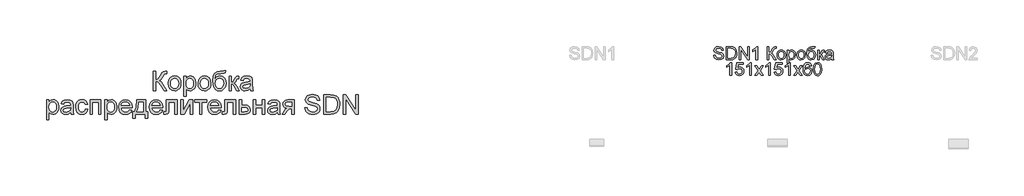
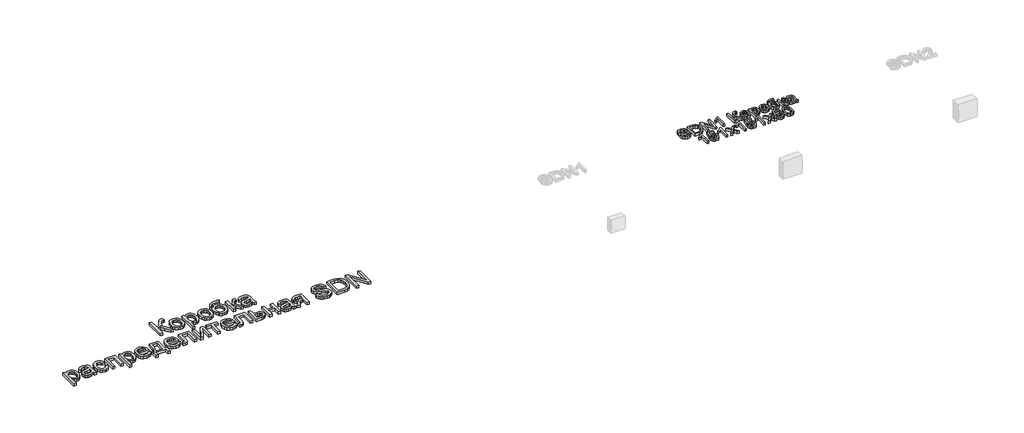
# One storey, part 5 of 28: 2 proxies.
"""IFC4 building model written with IfcOpenShell, lengths in millimetres."""

from ifc_helpers import new_model, si_unit, origin, origin_with_axes, place, context, project, spatial, polyline, outline, extrude, element, save

model = new_model("IFC4")

# Units and contexts
model_context = context("Model", 3, world=origin())
ifc_project = project(units=[si_unit("LENGTHUNIT", "METRE", prefix="MILLI")], contexts=[model_context])

# Site, building, storey
site = spatial("IfcSite", under=ifc_project)
building = spatial("IfcBuilding", under=site)
storey = spatial("IfcBuildingStorey", under=building, Name="Этаж 01", Elevation=0.0)

# Proxies
placement = place(None, origin())
element("IfcBuildingElementProxy", 1, Name="150 мм Arial", ObjectType="150 мм Arial", at=placement, inside=storey, context=model_context, shape_type="SweptSolid", body=[
    extrude(outline(polyline([(1448.1779829, -18118.9604819), (1467.013541, -18118.9604819), (1467.013541, -18184.8849354), (1479.7652507, -18183.6387351), (1488.0747853, -18179.9001344), (1502.771671, -18154.6818236), (1513.1643373, -18133.6205794), (1524.9365612, -18123.1911248), (1541.7671625, -18118.9604819), (1554.1279975, -18119.1812111), (1554.1279975, -18138.0167692), (1549.9709309, -18137.9064046), (1545.8138644, -18137.79604), (1531.0985846, -18142.3209886), (1519.9149719, -18161.7083697), (1506.5792496, -18185.3263938), (1493.5746211, -18193.1254921), (1508.1151569, -18201.6419603), (1522.4533577, -18219.3922665), (1554.1279975, -18269.6449471), (1532.275807, -18269.6449471), (1505.4939977, -18227.1913648), (1486.6400455, -18205.0264746), (1477.9350378, -18200.5153217), (1467.013541, -18199.011604), (1467.013541, -18269.6449471), (1448.1779829, -18269.6449471), (1448.1779829, -18118.9604819)])), origin_with_axes(), (0.0, 0.0, 1.0), 20.0),
    extrude(outline(polyline([(1563.5457766, -18214.315495), (1567.6200697, -18187.6348533), (1579.842949, -18168.8820686), (1594.9445049, -18159.6942158), (1613.0259049, -18156.6315982), (1632.8133577, -18160.3610019), (1648.618488, -18171.5492131), (1658.9789646, -18189.3133149), (1662.4324569, -18212.7703906), (1660.9057466, -18231.7990868), (1656.3256158, -18246.2844404), (1648.8254216, -18257.1323607), (1638.5385213, -18265.2487572), (1626.3202405, -18270.3117332), (1613.0259049, -18271.9993919), (1592.9993288, -18268.2837837), (1577.2125927, -18257.1369592), (1566.9624806, -18239.0003769), (1563.5457766, -18214.315495)]), holes=[polyline([(1582.3813347, -18214.2787068), (1584.5610355, -18231.3254388), (1591.100138, -18243.4701431), (1600.9409814, -18250.7404111), (1613.0259049, -18253.1638337), (1625.0556462, -18250.7266155), (1634.8780954, -18243.4149608), (1641.4171979, -18231.1093081), (1643.5968987, -18213.6900956), (1641.4034023, -18197.1400044), (1634.8229131, -18185.1608469), (1624.9866683, -18177.890579), (1613.0259049, -18175.4671563), (1600.9409814, -18177.8813819), (1591.100138, -18185.1240587), (1584.5610355, -18197.2411719), (1582.3813347, -18214.2787068)])]), origin_with_axes(), (0.0, 0.0, 1.0), 20.0),
    extrude(outline(polyline([(1683.6224598, -18312.0249529), (1683.6224598, -18158.9860429), (1702.4580179, -18158.9860429), (1702.4580179, -18177.4537191), (1715.4810406, -18161.8371284), (1733.0657999, -18156.6315982), (1745.803714, -18158.452614), (1756.9413414, -18163.9156617), (1766.0096326, -18172.6896473), (1772.539538, -18184.443477), (1777.8002506, -18213.4693664), (1776.314927, -18229.5779993), (1771.8589563, -18243.9851779), (1764.5748928, -18255.9597369), (1754.6052908, -18264.7705106), (1742.9940153, -18270.1921716), (1730.7849316, -18271.9993919), (1714.3957887, -18267.1617436), (1702.4580179, -18254.9296673), (1702.4580179, -18312.0249529), (1683.6224598, -18312.0249529)]), holes=[polyline([(1702.4580179, -18215.1984118), (1704.4951645, -18232.0841954), (1710.6066041, -18243.8932074), (1719.6243115, -18250.8461771), (1730.3802614, -18253.1638337), (1741.3109552, -18250.7634037), (1750.5585888, -18243.5621136), (1756.8631665, -18231.3208402), (1758.9646924, -18213.8004602), (1756.9137503, -18197.0066471), (1750.7609239, -18185.0320882), (1741.7570121, -18177.8583893), (1731.1528136, -18175.4671563), (1720.5072283, -18178.0101406), (1711.1584271, -18185.6390935), (1704.6331202, -18198.1148916), (1702.4580179, -18215.1984118)])]), origin_with_axes(), (0.0, 0.0, 1.0), 20.0),
    extrude(outline(polyline([(1794.2813639, -18214.315495), (1798.355657, -18187.6348533), (1810.5785363, -18168.8820686), (1825.6800922, -18159.6942158), (1843.7614923, -18156.6315982), (1863.5489451, -18160.3610019), (1879.3540753, -18171.5492131), (1889.714552, -18189.3133149), (1893.1680442, -18212.7703906), (1891.641334, -18231.7990868), (1887.0612031, -18246.2844404), (1879.561009, -18257.1323607), (1869.2741087, -18265.2487572), (1857.0558279, -18270.3117332), (1843.7614923, -18271.9993919), (1823.7349162, -18268.2837837), (1807.9481801, -18257.1369592), (1797.698068, -18239.0003769), (1794.2813639, -18214.315495)]), holes=[polyline([(1813.1169221, -18214.2787068), (1815.2966229, -18231.3254388), (1821.8357254, -18243.4701431), (1831.6765688, -18250.7404111), (1843.7614923, -18253.1638337), (1855.7912335, -18250.7266155), (1865.6136828, -18243.4149608), (1872.1527853, -18231.1093081), (1874.3324861, -18213.6900956), (1872.1389897, -18197.1400044), (1865.5585005, -18185.1608469), (1855.7222557, -18177.890579), (1843.7614923, -18175.4671563), (1831.6765688, -18177.8813819), (1821.8357254, -18185.1240587), (1815.2966229, -18197.2411719), (1813.1169221, -18214.2787068)])]), origin_with_axes(), (0.0, 0.0, 1.0), 20.0),
    extrude(outline(polyline([(1992.0547246, -18116.6060371), (2008.5358379, -18116.6060371), (2003.6797956, -18131.3029228), (1994.0780755, -18136.6188176), (1971.0118744, -18137.79604), (1939.9442399, -18142.1370476), (1932.8165263, -18147.7840362), (1928.0248633, -18156.042987), (1923.9965554, -18180.6542925), (1940.3121219, -18162.6280747), (1950.2311402, -18158.1307173), (1961.336578, -18156.6315982), (1980.9354912, -18160.4437753), (1996.8371905, -18171.8803069), (2007.3770097, -18189.8191527), (2010.8902827, -18213.1382726), (2009.1474418, -18231.1185051), (2003.9189189, -18245.5486764), (1987.3826232, -18265.1016044), (1976.088646, -18270.274945), (1961.336578, -18271.9993919), (1944.3358313, -18269.7783043), (1931.5933186, -18263.1150417), (1922.2169263, -18252.9890898), (1915.3145404, -18240.3799344), (1911.0655033, -18221.3926249), (1909.6491576, -18192.1322107), (1913.2222115, -18155.9924032), (1923.9413731, -18133.9516732), (1942.073357, -18122.7082797), (1967.8848775, -18118.9604819), (1988.8541512, -18118.5374176), (1992.0547246, -18116.6060371)]), holes=[polyline([(1992.0547246, -18212.5496614), (1990.0129795, -18197.7286156), (1983.8877443, -18185.8598227), (1974.0469009, -18178.0653229), (1960.8583314, -18175.4671563), (1947.1087418, -18178.2124757), (1936.9092135, -18186.4484339), (1930.5908402, -18199.2737199), (1928.4847158, -18215.787023), (1930.8115694, -18231.7944883), (1937.7921303, -18243.5437195), (1948.1847966, -18250.7588052), (1960.7479668, -18253.1638337), (1973.3755162, -18250.3817261), (1983.3727095, -18242.0354033), (1989.8842208, -18229.0997527), (1992.0547246, -18212.5496614)])]), origin_with_axes(), (0.0, 0.0, 1.0), 20.0),
    extrude(outline(polyline([(2034.4347304, -18158.9860429), (2053.2702886, -18158.9860429), (2053.2702886, -18206.0749383), (2065.888641, -18202.690424), (2076.226125, -18182.971949), (2084.8161696, -18165.9574067), (2092.3945387, -18160.4207827), (2106.1717195, -18158.9860429), (2109.776963, -18158.9860429), (2109.776963, -18177.9319657), (2104.7001915, -18177.8216011), (2095.5031416, -18179.8081639), (2089.0284185, -18192.2057871), (2081.4316553, -18205.6150858), (2070.7814715, -18212.1817794), (2082.66406, -18219.5118282), (2094.3259192, -18234.9536749), (2114.4858525, -18269.6449471), (2093.0751204, -18269.6449471), (2073.3198573, -18235.6894389), (2063.3870434, -18221.323647), (2053.2702886, -18217.8471622), (2053.2702886, -18269.6449471), (2034.4347304, -18269.6449471), (2034.4347304, -18158.9860429)])), origin_with_axes(), (0.0, 0.0, 1.0), 20.0),
    extrude(outline(polyline([(2196.8914195, -18255.5182785), (2178.6260784, -18268.2837837), (2158.447751, -18271.9993919), (2142.7070001, -18269.7645087), (2131.0957246, -18263.0598594), (2123.9358213, -18252.8787252), (2121.5491869, -18240.2143875), (2125.1544304, -18225.3151667), (2134.6273918, -18214.499436), (2147.8159613, -18208.3190185), (2164.1131337, -18205.4863271), (2196.7810549, -18199.011604), (2196.8914195, -18194.8177493), (2195.5946354, -18186.4116457), (2191.7042833, -18180.9118098), (2183.0038741, -18176.8283197), (2170.8821624, -18175.4671563), (2151.8258751, -18179.090794), (2142.7391898, -18191.9482697), (2123.9036316, -18189.5938249), (2132.0522178, -18171.1997252), (2148.4597548, -18160.4207827), (2173.3101836, -18156.6315982), (2196.1372614, -18159.9793243), (2209.0315253, -18168.3854279), (2214.8072726, -18181.1693272), (2215.7269776, -18197.6504406), (2215.7269776, -18221.0845237), (2216.6834708, -18253.8076272), (2220.4358672, -18269.6449471), (2201.600309, -18269.6449471), (2196.8914195, -18255.5182785)]), holes=[polyline([(2196.8914195, -18217.8471622), (2166.5043667, -18223.6229095), (2150.2991648, -18226.67633), (2142.959919, -18231.642737), (2140.384745, -18238.8900123), (2145.9949454, -18249.0803436), (2162.4576647, -18253.1638337), (2181.5139521, -18248.6572793), (2193.8012107, -18237.7495781), (2196.7810549, -18223.1814511), (2196.8914195, -18217.8471622)])]), origin_with_axes(), (0.0, 0.0, 1.0), 20.0),
    extrude(outline(polyline([(621.7678689, -18494.9871797), (621.7678689, -18341.9482697), (640.6034271, -18341.9482697), (640.6034271, -18360.4159459), (653.6264497, -18344.7993552), (671.2112091, -18339.5938249), (683.9491232, -18341.4148408), (695.0867506, -18346.8778884), (704.1550417, -18355.651874), (710.6849472, -18367.4057038), (715.9456597, -18396.4315932), (714.4603361, -18412.5402261), (710.0043655, -18426.9474047), (702.720302, -18438.9219636), (692.7506999, -18447.7327374), (681.1394244, -18453.1543983), (668.9303407, -18454.9616186), (652.5411978, -18450.1239704), (640.6034271, -18437.891894), (640.6034271, -18494.9871797), (621.7678689, -18494.9871797)]), holes=[polyline([(640.6034271, -18398.1606386), (642.6405736, -18415.0464221), (648.7520133, -18426.8554342), (657.7697207, -18433.8084039), (668.5256705, -18436.1260605), (679.4563643, -18433.7256304), (688.7039979, -18426.5243404), (695.0085756, -18414.283067), (697.1101015, -18396.762687), (695.0591594, -18379.9688739), (688.906333, -18367.994315), (679.9024212, -18360.8206161), (669.2982227, -18358.4293831), (658.6526375, -18360.9723674), (649.3038363, -18368.6013203), (642.7785294, -18381.0771184), (640.6034271, -18398.1606386)])]), origin_with_axes(), (0.0, 0.0, 1.0), 20.0),
    extrude(outline(polyline([(807.7690057, -18438.4805052), (789.5036646, -18451.2460105), (769.3253372, -18454.9616186), (753.5845863, -18452.7267355), (741.9733108, -18446.0220861), (734.8134075, -18435.8409519), (732.4267731, -18423.1766142), (736.0320166, -18408.2773934), (745.504978, -18397.4616628), (758.6935475, -18391.2812453), (774.9907199, -18388.4485539), (807.6586411, -18381.9738308), (807.7690057, -18377.779976), (806.4722216, -18369.3738724), (802.5818695, -18363.8740366), (793.8814604, -18359.7905465), (781.7597486, -18358.4293831), (762.7034613, -18362.0530207), (753.616776, -18374.9104965), (734.7812178, -18372.5560517), (742.929804, -18354.1619519), (759.337341, -18343.3830095), (784.1877698, -18339.5938249), (807.0148476, -18342.9415511), (819.9091115, -18351.3476547), (825.6848588, -18364.131554), (826.6045638, -18380.6126674), (826.6045638, -18404.0467505), (827.561057, -18436.769854), (831.3134534, -18452.6071739), (812.4778952, -18452.6071739), (807.7690057, -18438.4805052)]), holes=[polyline([(807.7690057, -18400.8093889), (777.3819529, -18406.5851363), (761.176751, -18409.6385568), (753.8375052, -18414.6049638), (751.2623312, -18421.8522391), (756.8725316, -18432.0425703), (773.3352509, -18436.1260605), (792.3915383, -18431.619506), (804.6787969, -18420.7118049), (807.6586411, -18406.1436779), (807.7690057, -18400.8093889)])]), origin_with_axes(), (0.0, 0.0, 1.0), 20.0),
    extrude(outline(polyline([(923.1367994, -18412.5816128), (941.9723575, -18414.9360575), (936.720842, -18431.6884839), (926.8524075, -18444.3482231), (913.295956, -18452.3082697), (896.9803895, -18454.9616186), (876.9446163, -18451.259806), (861.2774419, -18440.1543683), (851.1652855, -18422.1327491), (847.7945668, -18397.682392), (849.2339051, -18380.9207686), (853.55192, -18366.3940283), (860.8175894, -18354.6631912), (871.0998911, -18346.2892772), (883.4009454, -18341.267688), (896.7228721, -18339.5938249), (912.6383669, -18341.8930874), (925.3624854, -18348.7908748), (934.4905574, -18359.9193052), (939.6179128, -18374.9104965), (920.7823546, -18377.2649412), (912.0451572, -18363.1566667), (896.8700249, -18358.4293831), (884.6977294, -18360.7562367), (875.0362285, -18367.7367976), (868.7316508, -18379.7481447), (866.6301249, -18397.1673572), (868.6856656, -18414.8210944), (874.8522875, -18426.8738283), (884.3390445, -18433.8130024), (896.3549901, -18436.1260605), (906.1084615, -18434.6821236), (914.1052964, -18430.3503131), (919.9224304, -18423.0202644), (923.1367994, -18412.5816128)])), origin_with_axes(), (0.0, 0.0, 1.0), 20.0),
    extrude(outline(polyline([(958.4534709, -18341.9482697), (1043.2134826, -18341.9482697), (1043.2134826, -18452.6071739), (1024.3779244, -18452.6071739), (1024.3779244, -18360.7838279), (977.2890291, -18360.7838279), (977.2890291, -18452.6071739), (958.4534709, -18452.6071739), (958.4534709, -18341.9482697)])), origin_with_axes(), (0.0, 0.0, 1.0), 20.0),
    extrude(outline(polyline([(1071.4668198, -18494.9871797), (1071.4668198, -18341.9482697), (1090.302378, -18341.9482697), (1090.302378, -18360.4159459), (1103.3254006, -18344.7993552), (1120.91016, -18339.5938249), (1133.6480741, -18341.4148408), (1144.7857015, -18346.8778884), (1153.8539926, -18355.651874), (1160.3838981, -18367.4057038), (1165.6446106, -18396.4315932), (1164.159287, -18412.5402261), (1159.7033164, -18426.9474047), (1152.4192529, -18438.9219636), (1142.4496508, -18447.7327374), (1130.8383753, -18453.1543983), (1118.6292916, -18454.9616186), (1102.2401487, -18450.1239704), (1090.302378, -18437.891894), (1090.302378, -18494.9871797), (1071.4668198, -18494.9871797)]), holes=[polyline([(1090.302378, -18398.1606386), (1092.3395245, -18415.0464221), (1098.4509642, -18426.8554342), (1107.4686716, -18433.8084039), (1118.2246214, -18436.1260605), (1129.1553152, -18433.7256304), (1138.4029488, -18426.5243404), (1144.7075265, -18414.283067), (1146.8090524, -18396.762687), (1144.7581103, -18379.9688739), (1138.6052839, -18367.994315), (1129.6013721, -18360.8206161), (1118.9971736, -18358.4293831), (1108.3515884, -18360.9723674), (1099.0027872, -18368.6013203), (1092.4774803, -18381.0771184), (1090.302378, -18398.1606386)])]), origin_with_axes(), (0.0, 0.0, 1.0), 20.0),
    extrude(outline(polyline([(1264.3105617, -18419.6449471), (1282.7782379, -18421.9993919), (1276.1241723, -18435.9145283), (1265.5061782, -18446.3163917), (1251.1633789, -18452.8003119), (1233.3348977, -18454.9616186), (1211.2343868, -18451.2322149), (1194.2290416, -18440.0440037), (1183.3857198, -18422.123552), (1179.7712792, -18398.1974268), (1183.422508, -18373.4665596), (1194.3761944, -18354.9712923), (1211.1516134, -18343.4381918), (1232.2680399, -18339.5938249), (1252.7268774, -18343.4289947), (1269.0746335, -18354.9345041), (1279.7937952, -18373.3929832), (1283.366849, -18398.0870622), (1283.2564844, -18403.1638337), (1198.6068374, -18403.1638337), (1201.8671915, -18417.2629112), (1209.4409621, -18427.6279864), (1220.3716559, -18434.0015419), (1233.7027797, -18436.1260605), (1252.1704559, -18432.1897231), (1264.3105617, -18419.6449471)]), holes=[polyline([(1198.6068374, -18384.3282755), (1264.5312909, -18384.3282755), (1261.9837081, -18374.3770676), (1256.98971, -18367.258551), (1246.0084324, -18360.6366751), (1232.1944635, -18358.4293831), (1219.4979362, -18360.1906181), (1208.9995037, -18365.4743233), (1201.7016446, -18373.7102815), (1198.6068374, -18384.3282755)])]), origin_with_axes(), (0.0, 0.0, 1.0), 20.0),
    extrude(outline(polyline([(1318.6835206, -18341.9482697), (1389.3168637, -18341.9482697), (1389.3168637, -18433.7716157), (1403.4435323, -18433.7716157), (1403.4435323, -18483.2149559), (1384.6079741, -18483.2149559), (1384.6079741, -18452.6071739), (1306.9112967, -18452.6071739), (1306.9112967, -18483.2149559), (1288.0757386, -18483.2149559), (1288.0757386, -18433.7716157), (1299.8479624, -18433.7716157), (1308.4058173, -18418.3067763), (1314.3976953, -18397.8479389), (1318.6835206, -18341.9482697)]), holes=[polyline([(1335.164634, -18360.7838279), (1330.75005, -18403.6972626), (1321.0379654, -18433.7716157), (1370.4813055, -18433.7716157), (1370.4813055, -18360.7838279), (1335.164634, -18360.7838279)])]), origin_with_axes(), (0.0, 0.0, 1.0), 20.0),
    extrude(outline(polyline([(1502.1094834, -18419.6449471), (1520.5771595, -18421.9993919), (1513.9230939, -18435.9145283), (1503.3050999, -18446.3163917), (1488.9623006, -18452.8003119), (1471.1338194, -18454.9616186), (1449.0333085, -18451.2322149), (1432.0279633, -18440.0440037), (1421.1846415, -18422.123552), (1417.5702009, -18398.1974268), (1421.2214297, -18373.4665596), (1432.1751161, -18354.9712923), (1448.9505351, -18343.4381918), (1470.0669616, -18339.5938249), (1490.5257991, -18343.4289947), (1506.8735552, -18354.9345041), (1517.5927168, -18373.3929832), (1521.1657707, -18398.0870622), (1521.0554061, -18403.1638337), (1436.405759, -18403.1638337), (1439.6661132, -18417.2629112), (1447.2398838, -18427.6279864), (1458.1705776, -18434.0015419), (1471.5017014, -18436.1260605), (1489.9693775, -18432.1897231), (1502.1094834, -18419.6449471)]), holes=[polyline([(1436.405759, -18384.3282755), (1502.3302126, -18384.3282755), (1499.7826298, -18374.3770676), (1494.7886317, -18367.258551), (1483.8073541, -18360.6366751), (1469.9933852, -18358.4293831), (1457.2968578, -18360.1906181), (1446.7984254, -18365.4743233), (1439.5005663, -18373.7102815), (1436.405759, -18384.3282755)])]), origin_with_axes(), (0.0, 0.0, 1.0), 20.0),
    extrude(outline(polyline([(1549.419108, -18341.9482697), (1634.1791196, -18341.9482697), (1634.1791196, -18452.4968093), (1615.3435615, -18452.4968093), (1615.3435615, -18360.7838279), (1568.2546661, -18360.7838279), (1568.2546661, -18413.5748942), (1566.9854732, -18437.9286822), (1560.0141094, -18448.210984), (1543.532996, -18452.6071739), (1528.229105, -18451.6506807), (1528.229105, -18433.7716157), (1536.6536027, -18433.7716157), (1545.1700709, -18432.6127874), (1548.5729794, -18428.9339675), (1549.419108, -18412.5080364), (1549.419108, -18341.9482697)])), origin_with_axes(), (0.0, 0.0, 1.0), 20.0),
    extrude(outline(polyline([(1662.4324569, -18341.9482697), (1681.268015, -18341.9482697), (1681.268015, -18426.3403994), (1727.54757, -18341.9482697), (1751.9013581, -18341.9482697), (1751.9013581, -18452.6071739), (1733.0657999, -18452.6071739), (1733.0657999, -18368.730079), (1687.0805506, -18452.6071739), (1662.4324569, -18452.6071739), (1662.4324569, -18341.9482697)])), origin_with_axes(), (0.0, 0.0, 1.0), 20.0),
    extrude(outline(polyline([(1770.7369163, -18341.9482697), (1860.2058175, -18341.9482697), (1860.2058175, -18360.7838279), (1824.8891459, -18360.7838279), (1824.8891459, -18452.6071739), (1806.0535878, -18452.6071739), (1806.0535878, -18360.7838279), (1770.7369163, -18360.7838279), (1770.7369163, -18341.9482697)])), origin_with_axes(), (0.0, 0.0, 1.0), 20.0),
    extrude(outline(polyline([(1954.162879, -18419.6449471), (1972.6305552, -18421.9993919), (1965.9764896, -18435.9145283), (1955.3584955, -18446.3163917), (1941.0156962, -18452.8003119), (1923.1872151, -18454.9616186), (1901.0867042, -18451.2322149), (1884.081359, -18440.0440037), (1873.2380372, -18422.123552), (1869.6235966, -18398.1974268), (1873.2748254, -18373.4665596), (1884.2285118, -18354.9712923), (1901.0039307, -18343.4381918), (1922.1203573, -18339.5938249), (1942.5791947, -18343.4289947), (1958.9269509, -18354.9345041), (1969.6461125, -18373.3929832), (1973.2191664, -18398.0870622), (1973.1088018, -18403.1638337), (1888.4591547, -18403.1638337), (1891.7195089, -18417.2629112), (1899.2932795, -18427.6279864), (1910.2239733, -18434.0015419), (1923.5550971, -18436.1260605), (1942.0227732, -18432.1897231), (1954.162879, -18419.6449471)]), holes=[polyline([(1888.4591547, -18384.3282755), (1954.3836082, -18384.3282755), (1951.8360254, -18374.3770676), (1946.8420273, -18367.258551), (1935.8607498, -18360.6366751), (1922.0467809, -18358.4293831), (1909.3502535, -18360.1906181), (1898.8518211, -18365.4743233), (1891.553962, -18373.7102815), (1888.4591547, -18384.3282755)])]), origin_with_axes(), (0.0, 0.0, 1.0), 20.0),
    extrude(outline(polyline([(2001.4725036, -18341.9482697), (2086.2325153, -18341.9482697), (2086.2325153, -18452.4968093), (2067.3969572, -18452.4968093), (2067.3969572, -18360.7838279), (2020.3080618, -18360.7838279), (2020.3080618, -18413.5748942), (2019.0388689, -18437.9286822), (2012.0675051, -18448.210984), (1995.5863917, -18452.6071739), (1980.2825007, -18451.6506807), (1980.2825007, -18433.7716157), (1988.7069984, -18433.7716157), (1997.2234666, -18432.6127874), (2000.626375, -18428.9339675), (2001.4725036, -18412.5080364), (2001.4725036, -18341.9482697)])), origin_with_axes(), (0.0, 0.0, 1.0), 20.0),
    extrude(outline(polyline([(2114.4858525, -18341.9482697), (2133.3214107, -18341.9482697), (2133.3214107, -18381.9738308), (2155.0264484, -18381.9738308), (2173.8436125, -18384.3328741), (2187.767946, -18391.410004), (2196.3763847, -18402.6350033), (2199.2458642, -18417.4376551), (2196.8040475, -18430.9159317), (2189.4785973, -18442.2880839), (2176.7820699, -18450.0274014), (2158.2270218, -18452.6071739), (2114.4858525, -18452.6071739), (2114.4858525, -18341.9482697)]), holes=[polyline([(2133.3214107, -18433.7716157), (2150.9061701, -18433.7716157), (2173.6228833, -18429.8168843), (2178.7134504, -18424.7539083), (2180.4103061, -18417.4744433), (2175.3887168, -18405.8861605), (2167.3183056, -18402.0785818), (2153.1502502, -18400.8093889), (2133.3214107, -18400.8093889), (2133.3214107, -18433.7716157)])]), origin_with_axes(), (0.0, 0.0, 1.0), 20.0),
    extrude(outline(polyline([(2222.7903119, -18341.9482697), (2241.6258701, -18341.9482697), (2241.6258701, -18384.3282755), (2291.0692102, -18384.3282755), (2291.0692102, -18341.9482697), (2309.9047684, -18341.9482697), (2309.9047684, -18452.6071739), (2291.0692102, -18452.6071739), (2291.0692102, -18403.1638337), (2241.6258701, -18403.1638337), (2241.6258701, -18452.6071739), (2222.7903119, -18452.6071739), (2222.7903119, -18341.9482697)])), origin_with_axes(), (0.0, 0.0, 1.0), 20.0),
    extrude(outline(polyline([(2408.7914487, -18438.4805052), (2390.5261076, -18451.2460105), (2370.3477802, -18454.9616186), (2354.6070293, -18452.7267355), (2342.9957539, -18446.0220861), (2335.8358505, -18435.8409519), (2333.4492161, -18423.1766142), (2337.0544596, -18408.2773934), (2346.527421, -18397.4616628), (2359.7159905, -18391.2812453), (2376.0131629, -18388.4485539), (2408.6810841, -18381.9738308), (2408.7914487, -18377.779976), (2407.4946647, -18369.3738724), (2403.6043126, -18363.8740366), (2394.9039034, -18359.7905465), (2382.7821916, -18358.4293831), (2363.7259043, -18362.0530207), (2354.639219, -18374.9104965), (2335.8036608, -18372.5560517), (2343.952247, -18354.1619519), (2360.359784, -18343.3830095), (2385.2102128, -18339.5938249), (2408.0372906, -18342.9415511), (2420.9315545, -18351.3476547), (2426.7073019, -18364.131554), (2427.6270068, -18380.6126674), (2427.6270068, -18404.0467505), (2428.5835, -18436.769854), (2432.3358964, -18452.6071739), (2413.5003382, -18452.6071739), (2408.7914487, -18438.4805052)]), holes=[polyline([(2408.7914487, -18400.8093889), (2378.4043959, -18406.5851363), (2362.199194, -18409.6385568), (2354.8599482, -18414.6049638), (2352.2847742, -18421.8522391), (2357.8949747, -18432.0425703), (2374.3576939, -18436.1260605), (2393.4139813, -18431.619506), (2405.7012399, -18420.7118049), (2408.6810841, -18406.1436779), (2408.7914487, -18400.8093889)])]), origin_with_axes(), (0.0, 0.0, 1.0), 20.0),
    extrude(outline(polyline([(2538.285911, -18341.9482697), (2538.285911, -18452.6071739), (2519.4503528, -18452.6071739), (2519.4503528, -18410.227168), (2509.1864452, -18410.227168), (2495.2069294, -18412.618401), (2482.0735421, -18428.6948442), (2467.0639567, -18452.6071739), (2445.2853426, -18452.6071739), (2464.1944772, -18422.3672738), (2472.5453985, -18411.514755), (2480.2341322, -18406.6955009), (2467.3582623, -18402.7499665), (2458.3083652, -18395.2543708), (2452.9556822, -18385.2847687), (2451.1714545, -18373.9172151), (2453.6086728, -18361.0229512), (2460.9203274, -18350.8142258), (2472.8489011, -18344.1647587), (2489.1368764, -18341.9482697), (2538.285911, -18341.9482697)]), holes=[polyline([(2519.4503528, -18360.7838279), (2494.6183182, -18360.7838279), (2481.7930321, -18361.8736783), (2474.5135671, -18365.1432295), (2470.0070127, -18375.3519549), (2471.6670802, -18382.5302523), (2476.6472827, -18387.5104548), (2500.1733363, -18391.3916099), (2519.4503528, -18391.3916099), (2519.4503528, -18360.7838279)])]), origin_with_axes(), (0.0, 0.0, 1.0), 20.0),
    extrude(outline(polyline([(2620.6914779, -18400.8093889), (2639.5270361, -18400.8093889), (2645.597089, -18419.6633412), (2660.4227334, -18431.5827178), (2683.0106879, -18436.1260605), (2702.6923746, -18432.6863638), (2715.4026976, -18423.2317965), (2719.5781582, -18410.59505), (2716.4511613, -18398.8412203), (2703.6488678, -18390.2879639), (2676.2232651, -18383.0958709), (2646.700735, -18373.8068505), (2630.6794741, -18359.7905465), (2625.4003674, -18341.0653529), (2627.0328438, -18330.0334916), (2631.9302729, -18319.7465913), (2639.9638959, -18311.027788), (2651.0049543, -18304.7002177), (2678.9271977, -18299.5682639), (2708.7256394, -18304.939341), (2720.1483753, -18311.570414), (2728.5912671, -18320.7214786), (2733.9347531, -18331.8223178), (2736.0592716, -18344.3027145), (2717.2237134, -18344.3027145), (2713.7656227, -18333.0639195), (2706.5551356, -18324.9521215), (2695.2887495, -18320.0408969), (2679.6629617, -18318.403822), (2663.669292, -18320.0225028), (2652.6972115, -18324.8785451), (2646.3512471, -18332.0246529), (2644.2359256, -18340.5135299), (2645.7350447, -18347.7516082), (2650.2324021, -18353.5733408), (2680.9873369, -18364.0947658), (2714.3174457, -18373.5493331), (2725.0550014, -18380.3827411), (2732.5459985, -18388.8164359), (2736.9467869, -18398.7584468), (2738.4137164, -18410.1168034), (2736.7260577, -18421.7280789), (2731.6630818, -18432.6495756), (2723.4317221, -18442.0489606), (2712.2389124, -18449.0939008), (2698.7790299, -18453.4946892), (2683.7464519, -18454.9616186), (2665.2925713, -18453.379726), (2650.1036434, -18448.6340483), (2638.0049243, -18440.7061913), (2628.82167, -18429.577761), (2622.926361, -18416.0213094), (2620.6914779, -18400.8093889)])), origin_with_axes(), (0.0, 0.0, 1.0), 20.0),
    extrude(outline(polyline([(2766.6670536, -18452.6071739), (2766.6670536, -18301.9227086), (2818.6487795, -18301.9227086), (2845.5409534, -18304.0932124), (2867.6874495, -18314.8721549), (2878.107707, -18326.3500731), (2885.5297262, -18340.6238945), (2889.9719013, -18357.4177076), (2891.4526264, -18376.4556009), (2887.4427126, -18406.8610478), (2877.1420167, -18428.8052088), (2863.3832301, -18442.4720249), (2845.3754065, -18450.0319999), (2821.1503771, -18452.6071739), (2766.6670536, -18452.6071739)]), holes=[polyline([(2785.5026117, -18433.7716157), (2818.8327205, -18433.7716157), (2843.076144, -18431.0492889), (2857.0556598, -18423.3605552), (2868.515184, -18404.6537558), (2872.6170682, -18376.1612953), (2870.6075128, -18355.6334799), (2864.5788466, -18340.4767417), (2855.6715038, -18330.0656813), (2845.0259186, -18323.7748991), (2818.3176857, -18320.7582668), (2785.5026117, -18320.7582668), (2785.5026117, -18433.7716157)])]), origin_with_axes(), (0.0, 0.0, 1.0), 20.0),
    extrude(outline(polyline([(2917.3515188, -18452.6071739), (2917.3515188, -18301.9227086), (2937.5114522, -18301.9227086), (3016.2381991, -18421.3004161), (3016.2381991, -18301.9227086), (3035.0737573, -18301.9227086), (3035.0737573, -18452.6071739), (3014.9138239, -18452.6071739), (2936.187077, -18333.1926782), (2936.187077, -18452.6071739), (2917.3515188, -18452.6071739)])), origin_with_axes(), (0.0, 0.0, 1.0), 20.0),
])
element("IfcBuildingElementProxy", 2, Name="100 мм Arial", ObjectType="100 мм Arial", at=placement, inside=storey, context=model_context, shape_type="SweptSolid", body=[
    extrude(outline(polyline([(5784.9619995, -17996.4555668), (5797.5190382, -17996.4555668), (5801.5657402, -18009.0248683), (5811.4495031, -18016.9711194), (5826.5081394, -18020.0000145), (5839.6292639, -18017.7068834), (5848.1028126, -18011.4038385), (5850.886453, -18002.9793409), (5848.8017884, -17995.1434544), (5840.2669261, -17989.4412834), (5821.9831909, -17984.6465548), (5802.3015042, -17978.4538745), (5791.6206636, -17969.1096718), (5788.1012592, -17956.6262095), (5792.4545294, -17942.4137017), (5805.1709837, -17932.382786), (5823.7858127, -17928.9614834), (5843.6514404, -17932.5422015), (5856.8951922, -17943.0636266), (5861.8738619, -17958.7844505), (5849.3168231, -17958.7844505), (5847.0114293, -17951.2919205), (5842.2044379, -17945.8840552), (5824.276322, -17941.5185222), (5806.2991552, -17945.8350043), (5800.6582979, -17956.2583275), (5804.6559489, -17964.964868), (5825.1592388, -17971.9791514), (5847.3793113, -17978.2821962), (5859.5316799, -17988.4602648), (5863.4434918, -18002.6605098), (5858.9430687, -18017.6823579), (5845.9936225, -18028.6452414), (5826.9986488, -18032.5570533), (5804.5701098, -18028.3386731), (5790.3821275, -18015.6344815), (5784.9619995, -17996.4555668)])), origin_with_axes(), (0.0, 0.0, 1.0), 20.0),
    extrude(outline(polyline([(5882.2790499, -18030.9874234), (5882.2790499, -17930.5311133), (5916.9335339, -17930.5311133), (5934.8616498, -17931.9781158), (5949.6259805, -17939.1640774), (5961.5208317, -17956.3319039), (5965.4694318, -17980.2197081), (5962.7961559, -18000.490006), (5955.9290254, -18015.1194467), (5946.7565009, -18024.2306574), (5934.7512852, -18029.2706408), (5918.6012656, -18030.9874234), (5882.2790499, -18030.9874234)]), holes=[polyline([(5894.8360887, -18018.4303847), (5917.0561612, -18018.4303847), (5933.2184435, -18016.6155001), (5942.5381207, -18011.4896777), (5950.1778035, -17999.018478), (5952.912393, -17980.0235044), (5951.5726894, -17966.3382941), (5947.5535786, -17956.233802), (5934.5182932, -17945.0992403), (5916.7128047, -17943.088152), (5894.8360887, -17943.088152), (5894.8360887, -18018.4303847)])]), origin_with_axes(), (0.0, 0.0, 1.0), 20.0),
    extrude(outline(polyline([(5982.7353601, -18030.9874234), (5982.7353601, -17930.5311133), (5996.1753156, -17930.5311133), (6048.6598136, -18010.1162516), (6048.6598136, -17930.5311133), (6061.2168524, -17930.5311133), (6061.2168524, -18030.9874234), (6047.7768968, -18030.9874234), (5995.2923988, -17951.3777597), (5995.2923988, -18030.9874234), (5982.7353601, -18030.9874234)])), origin_with_axes(), (0.0, 0.0, 1.0), 20.0),
    extrude(outline(polyline([(6125.5716761, -18030.9874234), (6113.0146373, -18030.9874234), (6113.0146373, -17952.7021348), (6101.1197861, -17961.1756835), (6087.9005598, -17967.5155165), (6087.9005598, -17955.6451908), (6106.3069222, -17943.8974924), (6117.4782722, -17930.5311133), (6125.5716761, -17930.5311133), (6125.5716761, -18030.9874234)])), origin_with_axes(), (0.0, 0.0, 1.0), 20.0),
    extrude(outline(polyline([(6199.3442788, -17930.5311133), (6211.9013176, -17930.5311133), (6211.9013176, -17974.480749), (6225.9421471, -17971.1575483), (6235.7400709, -17954.3453411), (6242.6685151, -17940.3045116), (6250.5166644, -17933.3515419), (6261.7370652, -17930.5311133), (6269.9776219, -17930.6782661), (6269.9776219, -17943.2353048), (6267.2062442, -17943.1617284), (6264.4348665, -17943.088152), (6254.62468, -17946.1047844), (6247.1689382, -17959.0297052), (6238.2784566, -17974.7750546), (6229.6087043, -17979.9744534), (6239.3023949, -17985.6520989), (6248.8611954, -17997.4856364), (6269.9776219, -18030.9874234), (6255.4094949, -18030.9874234), (6237.5549554, -18002.6850353), (6224.9856539, -17987.9084418), (6211.9013176, -17983.898528), (6211.9013176, -18030.9874234), (6199.3442788, -18030.9874234), (6199.3442788, -17930.5311133)])), origin_with_axes(), (0.0, 0.0, 1.0), 20.0),
    extrude(outline(polyline([(6276.2561413, -17994.101122), (6278.9723367, -17976.3140276), (6287.1209229, -17963.8121711), (6297.1886268, -17957.6869359), (6309.2428935, -17955.6451908), (6322.4345287, -17958.13146), (6332.9712822, -17965.5902674), (6339.8782667, -17977.433002), (6342.1805948, -17993.0710524), (6338.1093674, -18015.4137523), (6326.2513044, -18028.0566302), (6309.2428935, -18032.5570533), (6295.8918428, -18030.0799812), (6285.367352, -18022.6487649), (6278.533944, -18010.55771), (6276.2561413, -17994.101122)]), holes=[polyline([(6288.8131801, -17994.0765966), (6290.2663139, -18005.4410845), (6294.6257156, -18013.5375541), (6301.1862778, -18018.3843994), (6309.2428935, -18020.0000145), (6317.262721, -18018.3752024), (6323.8110205, -18013.5007659), (6328.1704222, -18005.2969974), (6329.6235561, -17993.6841891), (6328.1612251, -17982.6507949), (6323.7742323, -17974.66469), (6317.2167358, -17969.8178447), (6309.2428935, -17968.2022296), (6301.1862778, -17969.8117133), (6294.6257156, -17974.6401645), (6290.2663139, -17982.71824), (6288.8131801, -17994.0765966)])]), origin_with_axes(), (0.0, 0.0, 1.0), 20.0),
    extrude(outline(polyline([(6356.3072634, -18059.2407606), (6356.3072634, -17957.2148207), (6368.8643022, -17957.2148207), (6368.8643022, -17969.5266048), (6377.5463173, -17959.1155443), (6389.2694902, -17955.6451908), (6405.1865179, -17960.5012331), (6415.5853156, -17974.1864434), (6419.0924573, -17993.5370363), (6415.1315945, -18013.8809106), (6403.6291507, -18027.7377991), (6387.7489113, -18032.5570533), (6376.822816, -18029.3319544), (6368.8643022, -18021.1772369), (6368.8643022, -18059.2407606), (6356.3072634, -18059.2407606)]), holes=[polyline([(6368.8643022, -17994.6897332), (6370.2223999, -18005.9469223), (6374.296693, -18013.819597), (6380.3084979, -18018.4549101), (6387.4791312, -18020.0000145), (6394.7662603, -18018.3997278), (6400.9313494, -18013.5988678), (6405.1344012, -18005.4380189), (6406.5354185, -17993.7577655), (6405.1681238, -17982.5618901), (6401.0662395, -17974.5788508), (6395.0636316, -17969.7963849), (6387.994166, -17968.2022296), (6380.8971091, -17969.8975524), (6374.664575, -17974.983521), (6370.3143704, -17983.3007198), (6368.8643022, -17994.6897332)])]), origin_with_axes(), (0.0, 0.0, 1.0), 20.0),
    extrude(outline(polyline([(6430.0798662, -17994.101122), (6432.7960616, -17976.3140276), (6440.9446478, -17963.8121711), (6451.0123517, -17957.6869359), (6463.0666184, -17955.6451908), (6476.2582536, -17958.13146), (6486.7950071, -17965.5902674), (6493.7019916, -17977.433002), (6496.0043197, -17993.0710524), (6491.9330923, -18015.4137523), (6480.0750293, -18028.0566302), (6463.0666184, -18032.5570533), (6449.7155677, -18030.0799812), (6439.1910769, -18022.6487649), (6432.3576689, -18010.55771), (6430.0798662, -17994.101122)]), holes=[polyline([(6442.636905, -17994.0765966), (6444.0900388, -18005.4410845), (6448.4494405, -18013.5375541), (6455.0100027, -18018.3843994), (6463.0666184, -18020.0000145), (6471.0864459, -18018.3752024), (6477.6347454, -18013.5007659), (6481.9941471, -18005.2969974), (6483.447281, -17993.6841891), (6481.98495, -17982.6507949), (6477.5979572, -17974.66469), (6471.0404607, -17969.8178447), (6463.0666184, -17968.2022296), (6455.0100027, -17969.8117133), (6448.4494405, -17974.6401645), (6444.0900388, -17982.71824), (6442.636905, -17994.0765966)])]), origin_with_axes(), (0.0, 0.0, 1.0), 20.0),
    extrude(outline(polyline([(6561.9287733, -17928.9614834), (6572.9161822, -17928.9614834), (6569.6788206, -17938.7594072), (6563.2776739, -17942.3033371), (6547.9002065, -17943.088152), (6527.1884502, -17945.9821571), (6519.2421991, -17955.2527833), (6516.5566605, -17971.6603203), (6527.4337049, -17959.6428418), (6541.4500089, -17955.6451908), (6554.5159511, -17958.1866423), (6565.1170839, -17965.8109966), (6572.14363, -17977.7702271), (6574.485812, -17993.3163071), (6569.8382362, -18014.923243), (6558.814039, -18027.9585283), (6541.4500089, -18032.5570533), (6530.1161777, -18031.0763282), (6521.6211693, -18026.6341531), (6510.7686505, -18011.4774149), (6506.9917287, -17979.3122658), (6509.3737646, -17955.2190608), (6516.5198723, -17940.5252408), (6528.6078616, -17933.0296452), (6545.8155419, -17930.5311133), (6559.7950577, -17930.2490704), (6561.9287733, -17928.9614834)]), holes=[polyline([(6561.9287733, -17992.9238997), (6560.5676099, -17983.0432024), (6556.4841197, -17975.1306738), (6549.9235575, -17969.9343406), (6541.1311778, -17968.2022296), (6531.9647848, -17970.0324425), (6525.1650992, -17975.5230813), (6520.9528504, -17984.073272), (6519.5487674, -17995.0821407), (6521.1000032, -18005.7537842), (6525.7537104, -18013.586605), (6532.6821547, -18018.3966621), (6541.0576014, -18020.0000145), (6549.4759677, -18018.1452761), (6556.1407632, -18012.5810609), (6560.4817708, -18003.9572938), (6561.9287733, -17992.9238997)])]), origin_with_axes(), (0.0, 0.0, 1.0), 20.0),
    extrude(outline(polyline([(6590.1821105, -17957.2148207), (6602.7391493, -17957.2148207), (6602.7391493, -17988.6074176), (6611.1513842, -17986.3510747), (6618.0430403, -17973.2054247), (6623.7697367, -17961.8623965), (6628.8219827, -17958.1713138), (6638.0067699, -17957.2148207), (6640.4102656, -17957.2148207), (6640.4102656, -17969.8454358), (6637.0257512, -17969.7718594), (6630.8943846, -17971.0962346), (6626.5779026, -17979.3613168), (6621.5133938, -17988.3008492), (6614.4132713, -17992.678645), (6622.3349969, -17997.5653442), (6630.1095697, -18007.8599087), (6643.5495253, -18030.9874234), (6629.2757039, -18030.9874234), (6616.1055284, -18008.350418), (6609.4836525, -17998.7732234), (6602.7391493, -17996.4555668), (6602.7391493, -18030.9874234), (6590.1821105, -18030.9874234), (6590.1821105, -17957.2148207)])), origin_with_axes(), (0.0, 0.0, 1.0), 20.0),
    extrude(outline(polyline([(6698.4865699, -18021.5696443), (6686.3096758, -18030.0799812), (6672.8574576, -18032.5570533), (6662.3636236, -18031.0671312), (6654.6227733, -18026.5973649), (6649.8495044, -18019.8099421), (6648.2584148, -18011.3670503), (6650.6619105, -18001.4342365), (6656.9772181, -17994.2237494), (6665.7695978, -17990.103471), (6676.6343794, -17988.2150101), (6698.4129935, -17983.898528), (6698.4865699, -17981.1026249), (6695.0284791, -17971.8319986), (6681.1470652, -17968.2022296), (6668.4428736, -17970.617988), (6662.3850834, -17979.1896385), (6649.8280447, -17977.6200087), (6655.2604354, -17965.3572755), (6666.1987934, -17958.1713138), (6682.765746, -17955.6451908), (6697.9837978, -17957.8770082), (6706.5799738, -17963.4810773), (6710.430472, -17972.0036769), (6711.0436086, -17982.9910858), (6711.0436086, -17998.6138078), (6711.6812708, -18020.4292102), (6714.1828683, -18030.9874234), (6701.6258296, -18030.9874234), (6698.4865699, -18021.5696443)]), holes=[polyline([(6698.4865699, -17996.4555668), (6678.2285347, -18000.306065), (6667.4250668, -18002.3416787), (6662.5322362, -18005.6526167), (6660.8154536, -18010.4841336), (6664.5555872, -18017.2776877), (6675.5307334, -18020.0000145), (6688.2349249, -18016.9956449), (6696.4264307, -18009.7238441), (6698.4129935, -18000.0117594), (6698.4865699, -17996.4555668)])]), origin_with_axes(), (0.0, 0.0, 1.0), 20.0),
    extrude(outline(polyline([(5923.8742408, -18152.9622413), (5911.3172021, -18152.9622413), (5911.3172021, -18074.6769527), (5899.4223509, -18083.1505013), (5886.2031245, -18089.4903344), (5886.2031245, -18077.6200087), (5904.609487, -18065.8723103), (5915.7808369, -18052.5059311), (5923.8742408, -18052.5059311), (5923.8742408, -18152.9622413)])), origin_with_axes(), (0.0, 0.0, 1.0), 20.0),
    extrude(outline(polyline([(5953.6972079, -18126.2785339), (5966.2542467, -18124.708904), (5972.581817, -18137.6460875), (5985.7029415, -18141.9748323), (5994.7037876, -18140.4695818), (6001.4482909, -18135.9538304), (6005.6605397, -18128.948744), (6007.0646227, -18119.975489), (6001.8039101, -18105.0640055), (5995.1973627, -18100.9621212), (5985.8991452, -18099.5948265), (5974.8749481, -18101.777593), (5967.8238765, -18107.4429757), (5955.2668378, -18105.8733459), (5966.2542467, -18054.075561), (6014.9127719, -18054.075561), (6014.9127719, -18066.6325997), (5976.4077897, -18066.6325997), (5971.0367126, -18094.2973258), (5980.0069019, -18088.8526722), (5989.4062869, -18087.0377877), (6001.1386569, -18089.2879993), (6010.8783327, -18096.0386339), (6017.4358293, -18106.327067), (6019.6216614, -18119.1906741), (6017.6534928, -18131.7477129), (6011.7489868, -18142.4898671), (6000.4427468, -18151.5213701), (5985.6538906, -18154.5318711), (5973.3206467, -18152.597425), (5963.4951317, -18146.7940865), (5956.7598255, -18137.796306), (5953.6972079, -18126.2785339)])), origin_with_axes(), (0.0, 0.0, 1.0), 20.0),
    extrude(outline(polyline([(6077.6979658, -18152.9622413), (6065.140927, -18152.9622413), (6065.140927, -18074.6769527), (6053.2460758, -18083.1505013), (6040.0268494, -18089.4903344), (6040.0268494, -18077.6200087), (6058.4332119, -18065.8723103), (6069.6045619, -18052.5059311), (6077.6979658, -18052.5059311), (6077.6979658, -18152.9622413)])), origin_with_axes(), (0.0, 0.0, 1.0), 20.0),
    extrude(outline(polyline([(6102.8120433, -18152.9622413), (6129.6429035, -18115.8797362), (6104.3816731, -18079.1896385), (6119.4893604, -18079.1896385), (6131.6785172, -18096.8479743), (6137.3684254, -18105.1866328), (6142.2980441, -18098.3685532), (6156.1794581, -18079.1896385), (6171.2871453, -18079.1896385), (6144.7505907, -18115.8797362), (6170.3061267, -18152.9622413), (6155.1984394, -18152.9622413), (6139.820972, -18130.6685924), (6137.0005434, -18126.5973649), (6117.9197306, -18152.9622413), (6102.8120433, -18152.9622413)])), origin_with_axes(), (0.0, 0.0, 1.0), 20.0),
    extrude(outline(polyline([(6225.2431713, -18152.9622413), (6212.6861325, -18152.9622413), (6212.6861325, -18074.6769527), (6200.7912813, -18083.1505013), (6187.572055, -18089.4903344), (6187.572055, -18077.6200087), (6205.9784175, -18065.8723103), (6217.1497674, -18052.5059311), (6225.2431713, -18052.5059311), (6225.2431713, -18152.9622413)])), origin_with_axes(), (0.0, 0.0, 1.0), 20.0),
    extrude(outline(polyline([(6255.0661384, -18126.2785339), (6267.6231771, -18124.708904), (6273.9507474, -18137.6460875), (6287.0718719, -18141.9748323), (6296.0727181, -18140.4695818), (6302.8172213, -18135.9538304), (6307.0294702, -18128.948744), (6308.4335531, -18119.975489), (6303.1728406, -18105.0640055), (6296.5662931, -18100.9621212), (6287.2680757, -18099.5948265), (6276.2438786, -18101.777593), (6269.192807, -18107.4429757), (6256.6357682, -18105.8733459), (6267.6231771, -18054.075561), (6316.2817024, -18054.075561), (6316.2817024, -18066.6325997), (6277.7767202, -18066.6325997), (6272.4056431, -18094.2973258), (6281.3758324, -18088.8526722), (6290.7752174, -18087.0377877), (6302.5075873, -18089.2879993), (6312.2472631, -18096.0386339), (6318.8047597, -18106.327067), (6320.9905919, -18119.1906741), (6319.0224232, -18131.7477129), (6313.1179172, -18142.4898671), (6301.8116772, -18151.5213701), (6287.022821, -18154.5318711), (6274.6895771, -18152.597425), (6264.8640622, -18146.7940865), (6258.128756, -18137.796306), (6255.0661384, -18126.2785339)])), origin_with_axes(), (0.0, 0.0, 1.0), 20.0),
    extrude(outline(polyline([(6379.0668962, -18152.9622413), (6366.5098574, -18152.9622413), (6366.5098574, -18074.6769527), (6354.6150063, -18083.1505013), (6341.3957799, -18089.4903344), (6341.3957799, -18077.6200087), (6359.8021424, -18065.8723103), (6370.9734923, -18052.5059311), (6379.0668962, -18052.5059311), (6379.0668962, -18152.9622413)])), origin_with_axes(), (0.0, 0.0, 1.0), 20.0),
    extrude(outline(polyline([(6404.1809737, -18152.9622413), (6431.0118339, -18115.8797362), (6405.7506036, -18079.1896385), (6420.8582909, -18079.1896385), (6433.0474476, -18096.8479743), (6438.7373558, -18105.1866328), (6443.6669746, -18098.3685532), (6457.5483885, -18079.1896385), (6472.6560758, -18079.1896385), (6446.1195212, -18115.8797362), (6471.6750571, -18152.9622413), (6456.5673699, -18152.9622413), (6441.1899025, -18130.6685924), (6438.3694738, -18126.5973649), (6419.288661, -18152.9622413), (6404.1809737, -18152.9622413)])), origin_with_axes(), (0.0, 0.0, 1.0), 20.0),
    extrude(outline(polyline([(6543.87803, -18079.1896385), (6531.3209913, -18080.7592683), (6526.5630508, -18070.2868942), (6513.9814866, -18065.0629699), (6502.6507211, -18068.1041277), (6494.0790706, -18079.5207323), (6490.5106153, -18101.9002203), (6501.5838633, -18091.8815673), (6515.3058617, -18088.6074176), (6526.9064073, -18090.8453664), (6536.6430175, -18097.5592128), (6543.2464993, -18107.8169891), (6545.4476599, -18120.6867276), (6541.3028561, -18138.0139695), (6529.8985142, -18150.2767027), (6513.4419263, -18154.5318711), (6499.195696, -18151.7114425), (6487.8496022, -18143.2501566), (6480.4275829, -18128.3141476), (6477.9535765, -18106.0695496), (6480.7004287, -18081.0597053), (6488.9409854, -18063.9593239), (6500.1920431, -18055.3692793), (6514.7663015, -18052.5059311), (6525.7843672, -18054.2778961), (6534.6074038, -18059.5937909), (6540.7878213, -18068.0366827), (6543.87803, -18079.1896385)]), holes=[polyline([(6490.5106153, -18120.4905238), (6493.416883, -18131.3675681), (6501.1424049, -18139.2647683), (6512.4609077, -18141.9748323), (6520.7474496, -18140.5707494), (6527.2620266, -18136.3585005), (6531.4834725, -18129.7366246), (6532.8906211, -18121.1036605), (6531.5018666, -18112.8171185), (6527.335603, -18106.4987453), (6520.7106614, -18102.4980286), (6511.9458729, -18101.1644563), (6496.7523465, -18106.4987453), (6492.0710481, -18112.6638344), (6490.5106153, -18120.4905238)])]), origin_with_axes(), (0.0, 0.0, 1.0), 20.0),
    extrude(outline(polyline([(6556.4350688, -18103.5434266), (6560.1261515, -18074.6401645), (6571.089035, -18057.9751101), (6589.3972956, -18052.5059311), (6604.0635245, -18055.7432927), (6614.1925421, -18065.0752326), (6620.078654, -18079.9376652), (6622.3595223, -18103.5434266), (6618.7052279, -18132.3240613), (6607.7791326, -18149.0259039), (6599.547773, -18153.1553793), (6589.3972956, -18154.5318711), (6576.3497475, -18152.1406381), (6566.4414591, -18144.9669392), (6558.9366664, -18127.9769224), (6556.4350688, -18103.5434266)]), holes=[polyline([(6568.9921076, -18103.5189011), (6570.4636356, -18123.2710986), (6574.8782195, -18134.7030316), (6581.4510445, -18140.1568821), (6589.3972956, -18141.9748323), (6597.3435467, -18140.1507508), (6603.9163717, -18134.6785061), (6608.3309556, -18123.2404417), (6609.8024836, -18103.5189011), (6608.3800065, -18084.2112277), (6604.1125754, -18072.6903899), (6597.5520131, -18066.9698249), (6589.2501428, -18065.0629699), (6581.3897308, -18066.7429643), (6575.0744232, -18071.7829477), (6570.5126865, -18084.0211554), (6568.9921076, -18103.5189011)])]), origin_with_axes(), (0.0, 0.0, 1.0), 20.0),
])

save(model, "model.ifc")
